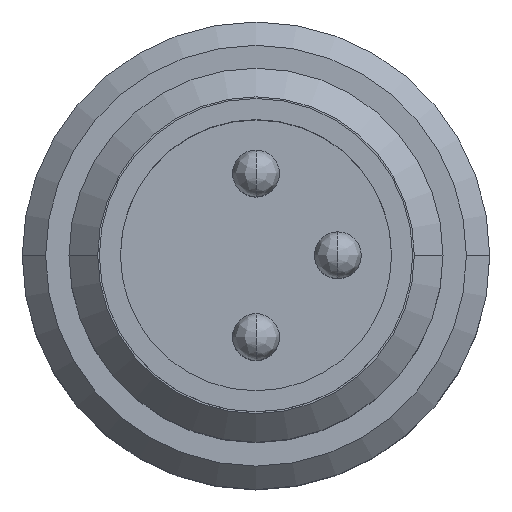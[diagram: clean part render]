
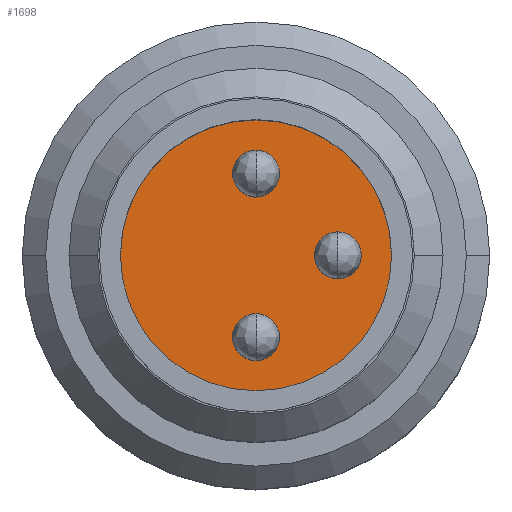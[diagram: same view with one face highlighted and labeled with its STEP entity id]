
A CAD part, top view. The second image highlights one B-rep face of the part: STEP entity #1698.
In plain terms, the highlighted planar face has unit normal (0, 0, 1).
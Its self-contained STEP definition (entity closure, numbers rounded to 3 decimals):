
#233 = ORIENTED_EDGE ( 'NONE', *, *, #5223, .F. ) ;
#388 = CARTESIAN_POINT ( 'NONE',  ( 3.15, 2.55, 95.8 ) ) ;
#625 = DIRECTION ( 'NONE',  ( 0., 0., 1. ) ) ;
#934 = EDGE_CURVE ( 'NONE', #1249, #7725, #4156, .T. ) ;
#965 = CIRCLE ( 'NONE', #9947, 0.5 ) ;
#1139 = VERTEX_POINT ( 'NONE', #6919 ) ;
#1234 = DIRECTION ( 'NONE',  ( 1., 0., 0. ) ) ;
#1249 = VERTEX_POINT ( 'NONE', #6041 ) ;
#1330 = VERTEX_POINT ( 'NONE', #3435 ) ;
#1350 = EDGE_LOOP ( 'NONE', ( #2589, #4167 ) ) ;
#1379 = DIRECTION ( 'NONE',  ( 0., 0., -1. ) ) ;
#1471 = VERTEX_POINT ( 'NONE', #2426 ) ;
#1698 = ADVANCED_FACE ( 'NONE', ( #10329, #4389, #1939, #6063 ), #10302, .F. ) ;
#1782 = ORIENTED_EDGE ( 'NONE', *, *, #7983, .T. ) ;
#1879 = CIRCLE ( 'NONE', #4551, 0.5 ) ;
#1939 = FACE_BOUND ( 'NONE', #1350, .T. ) ;
#1950 = AXIS2_PLACEMENT_3D ( 'NONE', #388, #6157, #1234 ) ;
#2083 = CARTESIAN_POINT ( 'NONE',  ( 4.4, 2.55, 95.8 ) ) ;
#2145 = VERTEX_POINT ( 'NONE', #2083 ) ;
#2328 = CARTESIAN_POINT ( 'NONE',  ( 3.65, 4.3, 95.8 ) ) ;
#2425 = ORIENTED_EDGE ( 'NONE', *, *, #3314, .T. ) ;
#2426 = CARTESIAN_POINT ( 'NONE',  ( 0.25, 2.55, 95.8 ) ) ;
#2589 = ORIENTED_EDGE ( 'NONE', *, *, #7784, .F. ) ;
#2673 = AXIS2_PLACEMENT_3D ( 'NONE', #7865, #1379, #7097 ) ;
#2735 = DIRECTION ( 'NONE',  ( 0., 0., 1. ) ) ;
#2857 = CIRCLE ( 'NONE', #5460, 2.9 ) ;
#3009 = CARTESIAN_POINT ( 'NONE',  ( 3.15, 2.55, 95.8 ) ) ;
#3022 = CARTESIAN_POINT ( 'NONE',  ( 4.9, 2.55, 95.8 ) ) ;
#3038 = DIRECTION ( 'NONE',  ( 0., 0., 1. ) ) ;
#3099 = EDGE_CURVE ( 'NONE', #7725, #1249, #1879, .T. ) ;
#3297 = CARTESIAN_POINT ( 'NONE',  ( 3.65, 0.8, 95.8 ) ) ;
#3314 = EDGE_CURVE ( 'NONE', #1139, #1471, #2857, .T. ) ;
#3435 = CARTESIAN_POINT ( 'NONE',  ( 5.4, 2.55, 95.8 ) ) ;
#3437 = DIRECTION ( 'NONE',  ( 0., 0., 1. ) ) ;
#3475 = CIRCLE ( 'NONE', #8283, 0.5 ) ;
#3487 = VERTEX_POINT ( 'NONE', #3297 ) ;
#3594 = CIRCLE ( 'NONE', #1950, 2.9 ) ;
#3828 = DIRECTION ( 'NONE',  ( 1., 0., 0. ) ) ;
#3834 = DIRECTION ( 'NONE',  ( 1., 0., 0. ) ) ;
#4156 = CIRCLE ( 'NONE', #9996, 0.5 ) ;
#4167 = ORIENTED_EDGE ( 'NONE', *, *, #9706, .F. ) ;
#4183 = DIRECTION ( 'NONE',  ( 0., 0., 1. ) ) ;
#4389 = FACE_BOUND ( 'NONE', #6638, .T. ) ;
#4551 = AXIS2_PLACEMENT_3D ( 'NONE', #5567, #625, #6380 ) ;
#4747 = DIRECTION ( 'NONE',  ( 1., 0., 0. ) ) ;
#5223 = EDGE_CURVE ( 'NONE', #1330, #2145, #965, .T. ) ;
#5460 = AXIS2_PLACEMENT_3D ( 'NONE', #3009, #8672, #3828 ) ;
#5492 = AXIS2_PLACEMENT_3D ( 'NONE', #8276, #3437, #9101 ) ;
#5567 = CARTESIAN_POINT ( 'NONE',  ( 3.15, 4.3, 95.8 ) ) ;
#5859 = CIRCLE ( 'NONE', #5492, 0.5 ) ;
#5956 = AXIS2_PLACEMENT_3D ( 'NONE', #3022, #8683, #3834 ) ;
#6041 = CARTESIAN_POINT ( 'NONE',  ( 2.65, 4.3, 95.8 ) ) ;
#6063 = FACE_BOUND ( 'NONE', #9154, .T. ) ;
#6156 = CARTESIAN_POINT ( 'NONE',  ( 2.65, 0.8, 95.8 ) ) ;
#6157 = DIRECTION ( 'NONE',  ( 0., 0., 1. ) ) ;
#6380 = DIRECTION ( 'NONE',  ( 1., 0., 0. ) ) ;
#6394 = EDGE_LOOP ( 'NONE', ( #2425, #1782 ) ) ;
#6608 = ORIENTED_EDGE ( 'NONE', *, *, #934, .F. ) ;
#6638 = EDGE_LOOP ( 'NONE', ( #9749, #6608 ) ) ;
#6678 = CARTESIAN_POINT ( 'NONE',  ( 3.15, 4.3, 95.8 ) ) ;
#6919 = CARTESIAN_POINT ( 'NONE',  ( 6.05, 2.55, 95.8 ) ) ;
#7097 = DIRECTION ( 'NONE',  ( -1., 0., 0. ) ) ;
#7388 = CIRCLE ( 'NONE', #5956, 0.5 ) ;
#7522 = VERTEX_POINT ( 'NONE', #6156 ) ;
#7597 = CARTESIAN_POINT ( 'NONE',  ( 4.9, 2.55, 95.8 ) ) ;
#7725 = VERTEX_POINT ( 'NONE', #2328 ) ;
#7784 = EDGE_CURVE ( 'NONE', #3487, #7522, #3475, .T. ) ;
#7803 = ORIENTED_EDGE ( 'NONE', *, *, #8488, .F. ) ;
#7865 = CARTESIAN_POINT ( 'NONE',  ( 3.15, 4., 95.8 ) ) ;
#7983 = EDGE_CURVE ( 'NONE', #1471, #1139, #3594, .T. ) ;
#8276 = CARTESIAN_POINT ( 'NONE',  ( 3.15, 0.8, 95.8 ) ) ;
#8283 = AXIS2_PLACEMENT_3D ( 'NONE', #9029, #4183, #9830 ) ;
#8407 = DIRECTION ( 'NONE',  ( 1., 0., 0. ) ) ;
#8488 = EDGE_CURVE ( 'NONE', #2145, #1330, #7388, .T. ) ;
#8672 = DIRECTION ( 'NONE',  ( 0., 0., 1. ) ) ;
#8683 = DIRECTION ( 'NONE',  ( 0., 0., 1. ) ) ;
#9029 = CARTESIAN_POINT ( 'NONE',  ( 3.15, 0.8, 95.8 ) ) ;
#9101 = DIRECTION ( 'NONE',  ( 1., 0., 0. ) ) ;
#9154 = EDGE_LOOP ( 'NONE', ( #233, #7803 ) ) ;
#9706 = EDGE_CURVE ( 'NONE', #7522, #3487, #5859, .T. ) ;
#9749 = ORIENTED_EDGE ( 'NONE', *, *, #3099, .F. ) ;
#9830 = DIRECTION ( 'NONE',  ( 1., 0., 0. ) ) ;
#9947 = AXIS2_PLACEMENT_3D ( 'NONE', #7597, #2735, #8407 ) ;
#9996 = AXIS2_PLACEMENT_3D ( 'NONE', #6678, #3038, #4747 ) ;
#10302 = PLANE ( 'NONE',  #2673 ) ;
#10329 = FACE_OUTER_BOUND ( 'NONE', #6394, .T. ) ;
